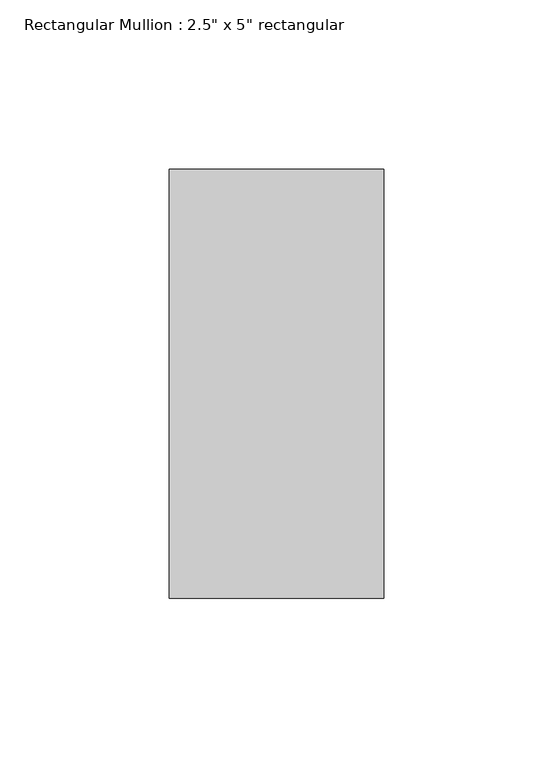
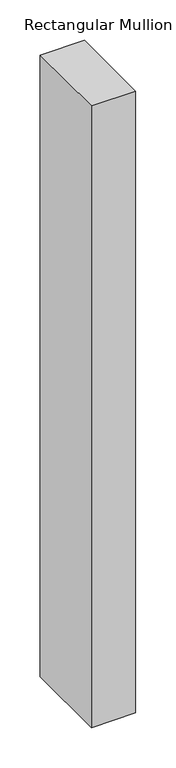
"""IFC4 building model written with IfcOpenShell, lengths in millimetres: member geometry."""

import ifcopenshell
import ifcopenshell.guid

model = None  # the IFC model being written
_history = None  # IfcOwnerHistory: only IFC2X3 demands one
_inside = {}  # id of a spatial element -> (the spatial element, [elements in it])
_under = {}  # id of a project, library or spatial element -> (it, [spatial elements below it])
_declared = {}  # id of a project -> (the project, [libraries it declares])
_typed = {}  # id of a type object -> (the type object, [elements of that type])
_made_of = {}  # id of a material, layer set ... -> (it, [elements and type objects made of it])


def new_model(schema):
    """Start an empty IFC model of exactly this schema.

    Asked for "IFC4X3", IfcOpenShell would pick the latest addendum, in which some entities
    have other attributes; the version numbers below select the first issue.
    IFC2X3 requires an IfcOwnerHistory on every rooted entity: one is made here for all.
    """
    global model, _history
    if schema == "IFC4X3":
        model = ifcopenshell.file(schema_version=(4, 3, 0, 0))
    else:
        model = ifcopenshell.file(schema=schema)
    _inside.clear()
    _under.clear()
    _declared.clear()
    _typed.clear()
    _made_of.clear()
    _history = None
    if model.schema == "IFC2X3":
        org = make("IfcOrganization", Name="unknown")
        user = make(
            "IfcPersonAndOrganization",
            ThePerson=make("IfcPerson", FamilyName="unknown"),
            TheOrganization=org,
        )
        app = make(
            "IfcApplication",
            ApplicationDeveloper=org,
            Version="unknown",
            ApplicationFullName="unknown",
            ApplicationIdentifier="unknown",
        )
        _history = make(
            "IfcOwnerHistory",
            OwningUser=user,
            OwningApplication=app,
            ChangeAction="ADDED",
            CreationDate=0,
        )
    return model


def make(cls, **values):
    """One entity of the class cls with the attributes given. An attribute that is None is left unset."""
    return model.create_entity(
        cls, **{name: value for name, value in values.items() if value is not None}
    )


def rooted(cls, **values):
    """An entity with a GlobalId (a new one), such as an element, a storey or a relation."""
    return make(cls, GlobalId=ifcopenshell.guid.new(), OwnerHistory=_history, **values)


def si_unit(unit_type, name, prefix=None):
    """IfcSIUnit, for example si_unit("LENGTHUNIT", "METRE", prefix="MILLI")."""
    return make("IfcSIUnit", UnitType=unit_type, Prefix=prefix, Name=name)


def assignment(units):
    """IfcUnitAssignment: the units of a project."""
    return None if units is None else make("IfcUnitAssignment", Units=units)


def point(xyz):
    """IfcCartesianPoint."""
    return None if xyz is None else make("IfcCartesianPoint", Coordinates=xyz)


def direction(xyz):
    """IfcDirection."""
    return None if xyz is None else make("IfcDirection", DirectionRatios=xyz)


def frame(location, z_axis=None, x_axis=None):
    """IfcAxis2Placement3D, a coordinate frame: its origin and axes. An axis left out is left unset."""
    return make(
        "IfcAxis2Placement3D",
        Location=point(location),
        Axis=direction(z_axis),
        RefDirection=direction(x_axis),
    )


def origin():
    """The frame at (0, 0, 0) with its axes left unset."""
    return frame((0.0, 0.0, 0.0))


def place(relative_to, where):
    """IfcLocalPlacement: puts the frame where relative to a parent placement (None: the world)."""
    return make(
        "IfcLocalPlacement", PlacementRelTo=relative_to, RelativePlacement=where
    )


def context(
    kind, dimensions, precision=None, world=None, true_north=None, identifier=None
):
    """IfcGeometricRepresentationContext, for example the 3D "Model" context."""
    return make(
        "IfcGeometricRepresentationContext",
        ContextIdentifier=identifier,
        ContextType=kind,
        CoordinateSpaceDimension=dimensions,
        Precision=precision,
        WorldCoordinateSystem=world,
        TrueNorth=true_north,
    )


def project(units=None, contexts=None):
    """IfcProject with its units and contexts."""
    return rooted(
        "IfcProject",
        Name="project",
        RepresentationContexts=contexts,
        UnitsInContext=assignment(units),
    )


def spatial(cls, under=None, at=None, **own):
    """A site, building, storey or space (cls), placed at a placement, below another one or the project."""
    s = rooted(cls, ObjectPlacement=at, **own)
    if under is not None:
        _under.setdefault(under.id(), (under, []))[1].append(s)
    return s


def polyline(points):
    """IfcPolyline through the points."""
    return make("IfcPolyline", Points=[point(p) for p in points])


def outline(outer, holes=None, kind="AREA"):
    """IfcArbitraryClosedProfileDef: a profile drawn as a closed curve; with holes, ...WithVoids."""
    if holes is None:
        return make("IfcArbitraryClosedProfileDef", ProfileType=kind, OuterCurve=outer)
    return make(
        "IfcArbitraryProfileDefWithVoids",
        ProfileType=kind,
        OuterCurve=outer,
        InnerCurves=holes,
    )


def extrude(swept, where, along, depth):
    """IfcExtrudedAreaSolid: the profile swept, set in the frame where, extruded along a direction by depth."""
    return make(
        "IfcExtrudedAreaSolid",
        SweptArea=swept,
        Position=where,
        ExtrudedDirection=direction(along),
        Depth=depth,
    )


def shape(context_of_items, identifier, shape_type, items):
    """IfcShapeRepresentation: the items that make up one representation, for example the "Body"."""
    return make(
        "IfcShapeRepresentation",
        ContextOfItems=context_of_items,
        RepresentationIdentifier=identifier,
        RepresentationType=shape_type,
        Items=items,
    )


def source(mapping_origin, context_of_items, identifier, shape_type, items):
    """IfcRepresentationMap: a shape defined once, which mapped items show again and again."""
    return make(
        "IfcRepresentationMap",
        MappingOrigin=mapping_origin,
        MappedRepresentation=shape(context_of_items, identifier, shape_type, items),
    )


def transform(
    local_origin,
    x_axis=None,
    y_axis=None,
    z_axis=None,
    scale=None,
    scale2=None,
    scale3=None,
    uniform=True,
):
    """IfcCartesianTransformationOperator3D, or its non-uniform kind. x_axis, y_axis, z_axis: its Axis1, 2, 3."""
    if uniform:
        return make(
            "IfcCartesianTransformationOperator3D",
            Axis1=direction(x_axis),
            Axis2=direction(y_axis),
            LocalOrigin=point(local_origin),
            Scale=scale,
            Axis3=direction(z_axis),
        )
    return make(
        "IfcCartesianTransformationOperator3DnonUniform",
        Axis1=direction(x_axis),
        Axis2=direction(y_axis),
        LocalOrigin=point(local_origin),
        Scale=scale,
        Axis3=direction(z_axis),
        Scale2=scale2,
        Scale3=scale3,
    )


def mapped(mapping_source, mapping_target):
    """IfcMappedItem: shows the shape of a source again, moved by a transform."""
    return make(
        "IfcMappedItem", MappingSource=mapping_source, MappingTarget=mapping_target
    )


def made_of(thing, what):
    """Note that an element or type object is made of a material, layer set ...; save() writes the relation."""
    if what is not None:
        _made_of.setdefault(what.id(), (what, []))[1].append(thing)
    return thing


def element(
    cls,
    number,
    at=None,
    inside=None,
    cuts=None,
    type_object=None,
    material=None,
    context=None,
    identifier="Body",
    shape_type=None,
    held_by="IfcProductDefinitionShape",
    body=None,
    shapes=None,
    **own,
):
    """One element of the class cls, such as IfcWall. Its Tag is "e" and its number.

    at: its placement. inside: the storey or other place that contains it. cuts: it is an
    opening in that element (IfcRelVoidsElement). A single representation is given by context,
    identifier, shape_type and body (its items); several are given by shapes. held_by: the class
    of the entity that holds the representations. save() writes the other relations.
    """
    e = rooted(cls, Tag="e%d" % number, ObjectPlacement=at, **own)
    if body is not None:
        shapes = [shape(context, identifier, shape_type, body)]
    if shapes is not None:
        e.Representation = make(held_by, Representations=shapes)
    if inside is not None:
        _inside.setdefault(inside.id(), (inside, []))[1].append(e)
    if cuts is not None:
        rooted(
            "IfcRelVoidsElement", RelatingBuildingElement=cuts, RelatedOpeningElement=e
        )
    if type_object is not None:
        _typed.setdefault(type_object.id(), (type_object, []))[1].append(e)
    return made_of(e, material)


def aggregate(whole, parts):
    """IfcRelAggregates: a whole, such as a stair, and the parts it consists of."""
    return rooted("IfcRelAggregates", RelatingObject=whole, RelatedObjects=parts)


def save(model, path):
    """Write the relations noted so far, then the file.

    IfcRelAggregates (storeys below a building ...), IfcRelContainedInSpatialStructure (elements
    in a storey), IfcRelDefinesByType, IfcRelAssociatesMaterial and IfcRelDeclares: one each for
    every whole, place, type object, material and project.
    """
    for whole, parts in _under.values():
        aggregate(whole, parts)
    for where, things in _inside.values():
        rooted(
            "IfcRelContainedInSpatialStructure",
            RelatedElements=things,
            RelatingStructure=where,
        )
    for kind, things in _typed.values():
        rooted("IfcRelDefinesByType", RelatedObjects=things, RelatingType=kind)
    for what, things in _made_of.values():
        rooted("IfcRelAssociatesMaterial", RelatedObjects=things, RelatingMaterial=what)
    for by, libraries in _declared.values():
        rooted("IfcRelDeclares", RelatingContext=by, RelatedDefinitions=libraries)
    model.write(path)


def member_6abc573a(model_context):
    return source(origin(), model_context, "Body", "SweptSolid", [
        extrude(outline(polyline([(0.0, 50.8), (0.0, -76.2), (-63.5, -76.2), (-63.5, 50.8), (0.0, 50.8)])), frame((0.0, 0.0, -940.8583333), z_axis=(0.0, 0.0, 1.0), x_axis=(1.0, 0.0, 0.0)), (0.0, 0.0, 1.0), 940.8583333),
    ])


if __name__ == "__main__":
    model = new_model("IFC4")
    model_context = context("Model", 3, world=origin())
    ifc_project = project(units=[si_unit("LENGTHUNIT", "METRE", prefix="MILLI")], contexts=[model_context])
    site = spatial("IfcSite", under=ifc_project)
    building = spatial("IfcBuilding", under=site)
    placement = place(None, origin())
    member_shape = member_6abc573a(model_context)
    element("IfcMember", 1, ObjectType="Rectangular Mullion : 2.5\" x 5\" rectangular", at=placement, inside=building, context=model_context, shape_type="MappedRepresentation", body=[
        mapped(member_shape, transform((0.0, 0.0, 0.0), x_axis=(1.0, 0.0, 0.0), y_axis=(0.0, 1.0, 0.0), z_axis=(0.0, 0.0, 1.0))),
    ])
    save(model, "model.ifc")
